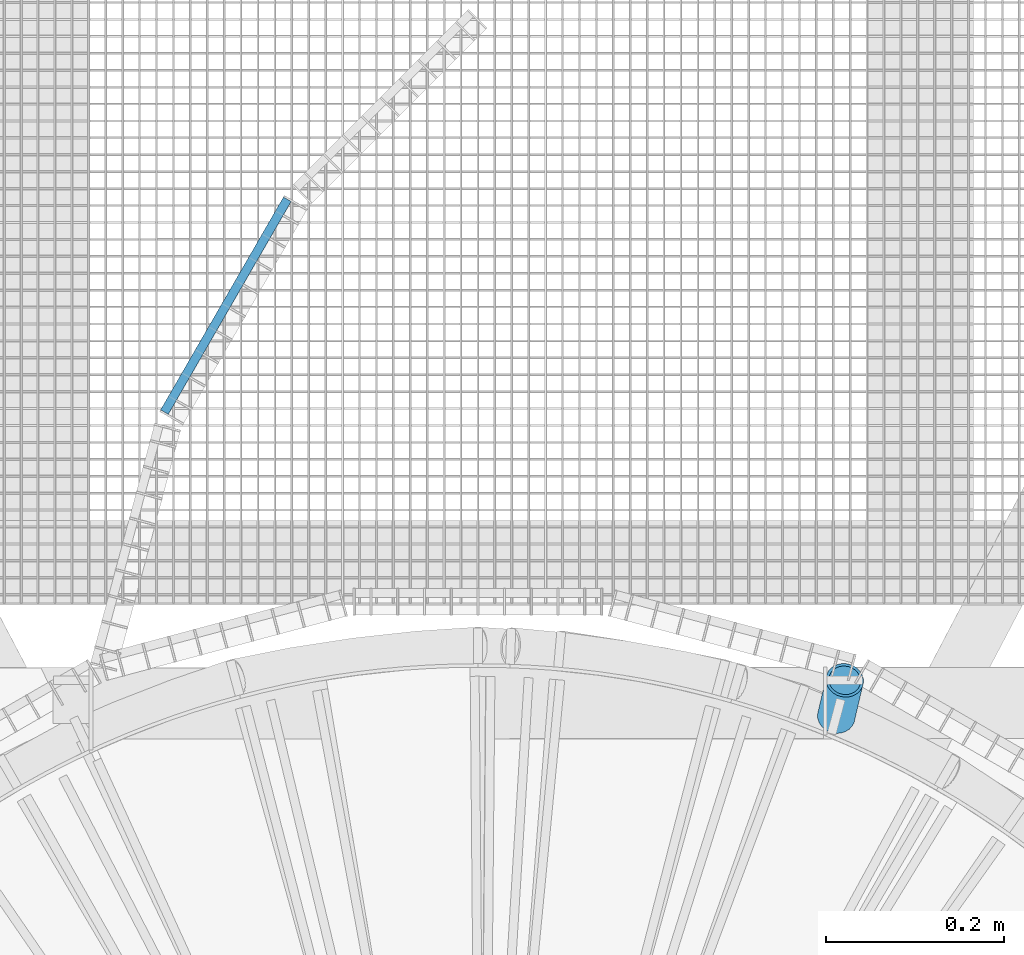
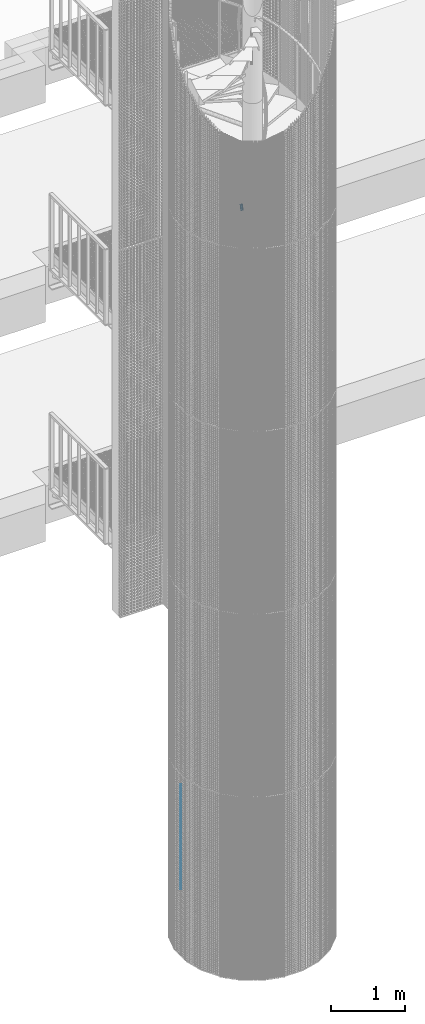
# One storey, part 329 of 1183: 52 beams, 1 member, 2 elements without a shape of their own.
"""IFC2X3 building model written with IfcOpenShell, lengths in millimetres."""

from ifc_helpers import new_model, si_unit, frame, origin_with_axes, origin_2d_with_axis, place, context, subcontext, project, spatial, rectangle, hollow_circle, extrude, material, type_object, element, aggregate, save


model = new_model("IFC2X3")

# Units and contexts
model_context = context("Model", 3, precision=1e-05, world=origin_with_axes())
body_context = subcontext(model_context, "Body", "Model", "MODEL_VIEW")
ifc_project = project(units=[si_unit("LENGTHUNIT", "METRE", prefix="MILLI"), si_unit("AREAUNIT", "SQUARE_METRE"), si_unit("VOLUMEUNIT", "CUBIC_METRE"), si_unit("MASSUNIT", "GRAM", prefix="KILO"), si_unit("TIMEUNIT", "SECOND"), si_unit("PLANEANGLEUNIT", "RADIAN"), si_unit("SOLIDANGLEUNIT", "STERADIAN"), si_unit("THERMODYNAMICTEMPERATUREUNIT", "DEGREE_CELSIUS"), si_unit("LUMINOUSINTENSITYUNIT", "LUMEN")], contexts=[model_context])

# Site, building, storey
site_placement = place(None, origin_with_axes())
site = spatial("IfcSite", under=ifc_project, at=site_placement, Name="Undefined", CompositionType="ELEMENT")
building_placement = place(site_placement, origin_with_axes())
building = spatial("IfcBuilding", under=site, at=building_placement, Name="Undefined", CompositionType="ELEMENT")
storey_placement = place(building_placement, origin_with_axes())
storey = spatial("IfcBuildingStorey", under=building, at=storey_placement, Name="Undefined", CompositionType="ELEMENT", Elevation=0.0)

# Assembly, beams
assembly_1_placement = place(storey_placement, origin_with_axes())
assembly_1 = element("IfcElementAssembly", 1, at=assembly_1_placement, inside=storey, Name="BORDURE", AssemblyPlace="NOTDEFINED", PredefinedType="NOTDEFINED")
ifc_material = material(Name="STEEL/S235JR")
beam_type = type_object("IfcBeamType", Name="PL2*10", PredefinedType="NOTDEFINED")
beam_1_placement = place(assembly_1_placement, frame((-214.029568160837, 1555.52617546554, 1560.0), z_axis=(-0.866025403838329, 0.499999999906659, 0.0), x_axis=(-0.49999999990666, -0.866025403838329, 0.0)))
beam_1 = element("IfcBeam", 2, at=beam_1_placement, type_object=beam_type, material=ifc_material, Name="ENTRETOISE", context=body_context, shape_type="SweptSolid", body=[
    extrude(rectangle(XDim=2.0, YDim=10.0, at=origin_2d_with_axis()), frame((275.999999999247, 9.09494701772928e-13, 1.53210777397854e-14), z_axis=(-1.0, 0.0, 0.0), x_axis=(0.0, -1.0, 0.0)), (0.0, 0.0, 1.0), 276.0),
])
beam_2_placement = place(assembly_1_placement, frame((-214.029568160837, 1555.52617546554, 1530.0), z_axis=(-0.866025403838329, 0.499999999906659, 0.0), x_axis=(-0.49999999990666, -0.866025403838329, 0.0)))
beam_2 = element("IfcBeam", 3, at=beam_2_placement, type_object=beam_type, material=ifc_material, Name="ENTRETOISE", context=body_context, shape_type="SweptSolid", body=[
    extrude(rectangle(XDim=2.0, YDim=10.0, at=origin_2d_with_axis()), frame((275.999999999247, 9.09494701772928e-13, 1.53210777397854e-14), z_axis=(-1.0, 0.0, 0.0), x_axis=(0.0, -1.0, 0.0)), (0.0, 0.0, 1.0), 276.0),
])
beam_3_placement = place(assembly_1_placement, frame((-214.029568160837, 1555.52617546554, 1500.0), z_axis=(-0.866025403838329, 0.499999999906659, 0.0), x_axis=(-0.49999999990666, -0.866025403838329, 0.0)))
beam_3 = element("IfcBeam", 4, at=beam_3_placement, type_object=beam_type, material=ifc_material, Name="ENTRETOISE", context=body_context, shape_type="SweptSolid", body=[
    extrude(rectangle(XDim=2.0, YDim=10.0, at=origin_2d_with_axis()), frame((275.999999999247, 9.09494701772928e-13, 1.53210777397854e-14), z_axis=(-1.0, 0.0, 0.0), x_axis=(0.0, -1.0, 0.0)), (0.0, 0.0, 1.0), 276.0),
])
beam_4_placement = place(assembly_1_placement, frame((-214.029568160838, 1555.52617546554, 1470.0), z_axis=(-0.866025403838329, 0.499999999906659, 0.0), x_axis=(-0.49999999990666, -0.866025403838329, 0.0)))
beam_4 = element("IfcBeam", 5, at=beam_4_placement, type_object=beam_type, material=ifc_material, Name="ENTRETOISE", context=body_context, shape_type="SweptSolid", body=[
    extrude(rectangle(XDim=2.0, YDim=10.0, at=origin_2d_with_axis()), frame((275.999999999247, 9.09494701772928e-13, 1.53210777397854e-14), z_axis=(-1.0, 0.0, 0.0), x_axis=(0.0, -1.0, 0.0)), (0.0, 0.0, 1.0), 276.0),
])
beam_5_placement = place(assembly_1_placement, frame((-214.029568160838, 1555.52617546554, 1440.0), z_axis=(-0.866025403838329, 0.499999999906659, 0.0), x_axis=(-0.49999999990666, -0.866025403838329, 0.0)))
beam_5 = element("IfcBeam", 6, at=beam_5_placement, type_object=beam_type, material=ifc_material, Name="ENTRETOISE", context=body_context, shape_type="SweptSolid", body=[
    extrude(rectangle(XDim=2.0, YDim=10.0, at=origin_2d_with_axis()), frame((275.999999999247, 9.09494701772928e-13, 1.53210777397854e-14), z_axis=(-1.0, 0.0, 0.0), x_axis=(0.0, -1.0, 0.0)), (0.0, 0.0, 1.0), 276.0),
])
beam_6_placement = place(assembly_1_placement, frame((-214.029568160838, 1555.52617546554, 1410.0), z_axis=(-0.866025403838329, 0.499999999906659, 0.0), x_axis=(-0.49999999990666, -0.866025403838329, 0.0)))
beam_6 = element("IfcBeam", 7, at=beam_6_placement, type_object=beam_type, material=ifc_material, Name="ENTRETOISE", context=body_context, shape_type="SweptSolid", body=[
    extrude(rectangle(XDim=2.0, YDim=10.0, at=origin_2d_with_axis()), frame((275.999999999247, 9.09494701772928e-13, 1.53210777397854e-14), z_axis=(-1.0, 0.0, 0.0), x_axis=(0.0, -1.0, 0.0)), (0.0, 0.0, 1.0), 276.0),
])
beam_7_placement = place(assembly_1_placement, frame((-214.029568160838, 1555.52617546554, 1380.0), z_axis=(-0.866025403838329, 0.499999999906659, 0.0), x_axis=(-0.49999999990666, -0.866025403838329, 0.0)))
beam_7 = element("IfcBeam", 8, at=beam_7_placement, type_object=beam_type, material=ifc_material, Name="ENTRETOISE", context=body_context, shape_type="SweptSolid", body=[
    extrude(rectangle(XDim=2.0, YDim=10.0, at=origin_2d_with_axis()), frame((275.999999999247, 9.09494701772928e-13, 1.53210777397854e-14), z_axis=(-1.0, 0.0, 0.0), x_axis=(0.0, -1.0, 0.0)), (0.0, 0.0, 1.0), 276.0),
])
beam_8_placement = place(assembly_1_placement, frame((-214.029568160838, 1555.52617546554, 1350.0), z_axis=(-0.866025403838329, 0.499999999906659, 0.0), x_axis=(-0.49999999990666, -0.866025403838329, 0.0)))
beam_8 = element("IfcBeam", 9, at=beam_8_placement, type_object=beam_type, material=ifc_material, Name="ENTRETOISE", context=body_context, shape_type="SweptSolid", body=[
    extrude(rectangle(XDim=2.0, YDim=10.0, at=origin_2d_with_axis()), frame((275.999999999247, 9.09494701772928e-13, 1.53210777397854e-14), z_axis=(-1.0, 0.0, 0.0), x_axis=(0.0, -1.0, 0.0)), (0.0, 0.0, 1.0), 276.0),
])
beam_9_placement = place(assembly_1_placement, frame((-214.029568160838, 1555.52617546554, 1320.0), z_axis=(-0.866025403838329, 0.499999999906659, 0.0), x_axis=(-0.49999999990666, -0.866025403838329, 0.0)))
beam_9 = element("IfcBeam", 10, at=beam_9_placement, type_object=beam_type, material=ifc_material, Name="ENTRETOISE", context=body_context, shape_type="SweptSolid", body=[
    extrude(rectangle(XDim=2.0, YDim=10.0, at=origin_2d_with_axis()), frame((275.999999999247, 9.09494701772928e-13, 1.53210777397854e-14), z_axis=(-1.0, 0.0, 0.0), x_axis=(0.0, -1.0, 0.0)), (0.0, 0.0, 1.0), 276.0),
])
beam_10_placement = place(assembly_1_placement, frame((-214.029568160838, 1555.52617546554, 1290.0), z_axis=(-0.866025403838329, 0.499999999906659, 0.0), x_axis=(-0.49999999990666, -0.866025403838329, 0.0)))
beam_10 = element("IfcBeam", 11, at=beam_10_placement, type_object=beam_type, material=ifc_material, Name="ENTRETOISE", context=body_context, shape_type="SweptSolid", body=[
    extrude(rectangle(XDim=2.0, YDim=10.0, at=origin_2d_with_axis()), frame((275.999999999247, 9.09494701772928e-13, 1.53210777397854e-14), z_axis=(-1.0, 0.0, 0.0), x_axis=(0.0, -1.0, 0.0)), (0.0, 0.0, 1.0), 276.0),
])
beam_11_placement = place(assembly_1_placement, frame((-214.029568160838, 1555.52617546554, 1260.0), z_axis=(-0.866025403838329, 0.499999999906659, 0.0), x_axis=(-0.49999999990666, -0.866025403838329, 0.0)))
beam_11 = element("IfcBeam", 12, at=beam_11_placement, type_object=beam_type, material=ifc_material, Name="ENTRETOISE", context=body_context, shape_type="SweptSolid", body=[
    extrude(rectangle(XDim=2.0, YDim=10.0, at=origin_2d_with_axis()), frame((275.999999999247, 9.09494701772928e-13, 1.53210777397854e-14), z_axis=(-1.0, 0.0, 0.0), x_axis=(0.0, -1.0, 0.0)), (0.0, 0.0, 1.0), 276.0),
])
beam_12_placement = place(assembly_1_placement, frame((-214.029568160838, 1555.52617546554, 1230.0), z_axis=(-0.866025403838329, 0.499999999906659, 0.0), x_axis=(-0.49999999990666, -0.866025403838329, 0.0)))
beam_12 = element("IfcBeam", 13, at=beam_12_placement, type_object=beam_type, material=ifc_material, Name="ENTRETOISE", context=body_context, shape_type="SweptSolid", body=[
    extrude(rectangle(XDim=2.0, YDim=10.0, at=origin_2d_with_axis()), frame((275.999999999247, 9.09494701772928e-13, 1.53210777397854e-14), z_axis=(-1.0, 0.0, 0.0), x_axis=(0.0, -1.0, 0.0)), (0.0, 0.0, 1.0), 276.0),
])
beam_13_placement = place(assembly_1_placement, frame((-214.029568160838, 1555.52617546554, 1200.0), z_axis=(-0.866025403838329, 0.499999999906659, 0.0), x_axis=(-0.49999999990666, -0.866025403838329, 0.0)))
beam_13 = element("IfcBeam", 14, at=beam_13_placement, type_object=beam_type, material=ifc_material, Name="ENTRETOISE", context=body_context, shape_type="SweptSolid", body=[
    extrude(rectangle(XDim=2.0, YDim=10.0, at=origin_2d_with_axis()), frame((275.999999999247, 9.09494701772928e-13, 1.53210777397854e-14), z_axis=(-1.0, 0.0, 0.0), x_axis=(0.0, -1.0, 0.0)), (0.0, 0.0, 1.0), 276.0),
])
beam_14_placement = place(assembly_1_placement, frame((-214.029568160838, 1555.52617546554, 1170.0), z_axis=(-0.866025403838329, 0.499999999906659, 0.0), x_axis=(-0.49999999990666, -0.866025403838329, 0.0)))
beam_14 = element("IfcBeam", 15, at=beam_14_placement, type_object=beam_type, material=ifc_material, Name="ENTRETOISE", context=body_context, shape_type="SweptSolid", body=[
    extrude(rectangle(XDim=2.0, YDim=10.0, at=origin_2d_with_axis()), frame((275.999999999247, 9.09494701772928e-13, 1.53210777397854e-14), z_axis=(-1.0, 0.0, 0.0), x_axis=(0.0, -1.0, 0.0)), (0.0, 0.0, 1.0), 276.0),
])
beam_15_placement = place(assembly_1_placement, frame((-214.029568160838, 1555.52617546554, 1140.0), z_axis=(-0.866025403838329, 0.499999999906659, 0.0), x_axis=(-0.49999999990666, -0.866025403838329, 0.0)))
beam_15 = element("IfcBeam", 16, at=beam_15_placement, type_object=beam_type, material=ifc_material, Name="ENTRETOISE", context=body_context, shape_type="SweptSolid", body=[
    extrude(rectangle(XDim=2.0, YDim=10.0, at=origin_2d_with_axis()), frame((275.999999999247, 9.09494701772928e-13, 1.53210777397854e-14), z_axis=(-1.0, 0.0, 0.0), x_axis=(0.0, -1.0, 0.0)), (0.0, 0.0, 1.0), 276.0),
])
beam_16_placement = place(assembly_1_placement, frame((-214.029568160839, 1555.52617546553, 719.999999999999), z_axis=(-0.866025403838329, 0.499999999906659, 0.0), x_axis=(-0.49999999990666, -0.866025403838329, 0.0)))
beam_16 = element("IfcBeam", 17, at=beam_16_placement, type_object=beam_type, material=ifc_material, Name="ENTRETOISE", context=body_context, shape_type="SweptSolid", body=[
    extrude(rectangle(XDim=2.0, YDim=10.0, at=origin_2d_with_axis()), frame((275.999999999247, 9.09494701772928e-13, 1.53210777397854e-14), z_axis=(-1.0, 0.0, 0.0), x_axis=(0.0, -1.0, 0.0)), (0.0, 0.0, 1.0), 276.0),
])
beam_17_placement = place(assembly_1_placement, frame((-214.029568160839, 1555.52617546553, 689.999999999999), z_axis=(-0.866025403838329, 0.499999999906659, 0.0), x_axis=(-0.49999999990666, -0.866025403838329, 0.0)))
beam_17 = element("IfcBeam", 18, at=beam_17_placement, type_object=beam_type, material=ifc_material, Name="ENTRETOISE", context=body_context, shape_type="SweptSolid", body=[
    extrude(rectangle(XDim=2.0, YDim=10.0, at=origin_2d_with_axis()), frame((275.999999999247, 9.09494701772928e-13, 1.53210777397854e-14), z_axis=(-1.0, 0.0, 0.0), x_axis=(0.0, -1.0, 0.0)), (0.0, 0.0, 1.0), 276.0),
])
beam_18_placement = place(assembly_1_placement, frame((-214.029568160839, 1555.52617546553, 749.999999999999), z_axis=(-0.866025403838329, 0.499999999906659, 0.0), x_axis=(-0.49999999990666, -0.866025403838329, 0.0)))
beam_18 = element("IfcBeam", 19, at=beam_18_placement, type_object=beam_type, material=ifc_material, Name="ENTRETOISE", context=body_context, shape_type="SweptSolid", body=[
    extrude(rectangle(XDim=2.0, YDim=10.0, at=origin_2d_with_axis()), frame((275.999999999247, 9.09494701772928e-13, 1.53210777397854e-14), z_axis=(-1.0, 0.0, 0.0), x_axis=(0.0, -1.0, 0.0)), (0.0, 0.0, 1.0), 276.0),
])
beam_19_placement = place(assembly_1_placement, frame((-214.029568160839, 1555.52617546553, 659.999999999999), z_axis=(-0.866025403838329, 0.499999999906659, 0.0), x_axis=(-0.49999999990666, -0.866025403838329, 0.0)))
beam_19 = element("IfcBeam", 20, at=beam_19_placement, type_object=beam_type, material=ifc_material, Name="ENTRETOISE", context=body_context, shape_type="SweptSolid", body=[
    extrude(rectangle(XDim=2.0, YDim=10.0, at=origin_2d_with_axis()), frame((275.999999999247, 9.09494701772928e-13, 1.53210777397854e-14), z_axis=(-1.0, 0.0, 0.0), x_axis=(0.0, -1.0, 0.0)), (0.0, 0.0, 1.0), 276.0),
])
beam_20_placement = place(assembly_1_placement, frame((-214.02956816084, 1555.52617546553, 629.999999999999), z_axis=(-0.866025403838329, 0.499999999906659, 0.0), x_axis=(-0.49999999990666, -0.866025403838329, 0.0)))
beam_20 = element("IfcBeam", 21, at=beam_20_placement, type_object=beam_type, material=ifc_material, Name="ENTRETOISE", context=body_context, shape_type="SweptSolid", body=[
    extrude(rectangle(XDim=2.0, YDim=10.0, at=origin_2d_with_axis()), frame((275.999999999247, 9.09494701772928e-13, 1.53210777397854e-14), z_axis=(-1.0, 0.0, 0.0), x_axis=(0.0, -1.0, 0.0)), (0.0, 0.0, 1.0), 276.0),
])
beam_21_placement = place(assembly_1_placement, frame((-214.029568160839, 1555.52617546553, 779.999999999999), z_axis=(-0.866025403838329, 0.499999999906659, 0.0), x_axis=(-0.49999999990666, -0.866025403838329, 0.0)))
beam_21 = element("IfcBeam", 22, at=beam_21_placement, type_object=beam_type, material=ifc_material, Name="ENTRETOISE", context=body_context, shape_type="SweptSolid", body=[
    extrude(rectangle(XDim=2.0, YDim=10.0, at=origin_2d_with_axis()), frame((275.999999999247, 9.09494701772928e-13, 1.53210777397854e-14), z_axis=(-1.0, 0.0, 0.0), x_axis=(0.0, -1.0, 0.0)), (0.0, 0.0, 1.0), 276.0),
])
beam_22_placement = place(assembly_1_placement, frame((-214.02956816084, 1555.52617546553, 599.999999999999), z_axis=(-0.866025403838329, 0.499999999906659, 0.0), x_axis=(-0.49999999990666, -0.866025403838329, 0.0)))
beam_22 = element("IfcBeam", 23, at=beam_22_placement, type_object=beam_type, material=ifc_material, Name="ENTRETOISE", context=body_context, shape_type="SweptSolid", body=[
    extrude(rectangle(XDim=2.0, YDim=10.0, at=origin_2d_with_axis()), frame((275.999999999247, 9.09494701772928e-13, 1.53210777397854e-14), z_axis=(-1.0, 0.0, 0.0), x_axis=(0.0, -1.0, 0.0)), (0.0, 0.0, 1.0), 276.0),
])
beam_23_placement = place(assembly_1_placement, frame((-214.029568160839, 1555.52617546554, 809.999999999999), z_axis=(-0.866025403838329, 0.499999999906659, 0.0), x_axis=(-0.49999999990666, -0.866025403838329, 0.0)))
beam_23 = element("IfcBeam", 24, at=beam_23_placement, type_object=beam_type, material=ifc_material, Name="ENTRETOISE", context=body_context, shape_type="SweptSolid", body=[
    extrude(rectangle(XDim=2.0, YDim=10.0, at=origin_2d_with_axis()), frame((275.999999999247, 9.09494701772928e-13, 1.53210777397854e-14), z_axis=(-1.0, 0.0, 0.0), x_axis=(0.0, -1.0, 0.0)), (0.0, 0.0, 1.0), 276.0),
])
beam_24_placement = place(assembly_1_placement, frame((-214.02956816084, 1555.52617546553, 569.999999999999), z_axis=(-0.866025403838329, 0.499999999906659, 0.0), x_axis=(-0.49999999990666, -0.866025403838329, 0.0)))
beam_24 = element("IfcBeam", 25, at=beam_24_placement, type_object=beam_type, material=ifc_material, Name="ENTRETOISE", context=body_context, shape_type="SweptSolid", body=[
    extrude(rectangle(XDim=2.0, YDim=10.0, at=origin_2d_with_axis()), frame((275.999999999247, 9.09494701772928e-13, 1.53210777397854e-14), z_axis=(-1.0, 0.0, 0.0), x_axis=(0.0, -1.0, 0.0)), (0.0, 0.0, 1.0), 276.0),
])
beam_25_placement = place(assembly_1_placement, frame((-214.02956816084, 1555.52617546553, 539.999999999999), z_axis=(-0.866025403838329, 0.499999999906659, 0.0), x_axis=(-0.49999999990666, -0.866025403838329, 0.0)))
beam_25 = element("IfcBeam", 26, at=beam_25_placement, type_object=beam_type, material=ifc_material, Name="ENTRETOISE", context=body_context, shape_type="SweptSolid", body=[
    extrude(rectangle(XDim=2.0, YDim=10.0, at=origin_2d_with_axis()), frame((275.999999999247, 9.09494701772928e-13, 1.53210777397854e-14), z_axis=(-1.0, 0.0, 0.0), x_axis=(0.0, -1.0, 0.0)), (0.0, 0.0, 1.0), 276.0),
])
beam_26_placement = place(assembly_1_placement, frame((-214.029568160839, 1555.52617546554, 839.999999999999), z_axis=(-0.866025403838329, 0.499999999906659, 0.0), x_axis=(-0.49999999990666, -0.866025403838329, 0.0)))
beam_26 = element("IfcBeam", 27, at=beam_26_placement, type_object=beam_type, material=ifc_material, Name="ENTRETOISE", context=body_context, shape_type="SweptSolid", body=[
    extrude(rectangle(XDim=2.0, YDim=10.0, at=origin_2d_with_axis()), frame((275.999999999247, 9.09494701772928e-13, 1.53210777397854e-14), z_axis=(-1.0, 0.0, 0.0), x_axis=(0.0, -1.0, 0.0)), (0.0, 0.0, 1.0), 276.0),
])
beam_27_placement = place(assembly_1_placement, frame((-214.029568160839, 1555.52617546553, 509.999999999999), z_axis=(-0.866025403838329, 0.499999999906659, 0.0), x_axis=(-0.49999999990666, -0.866025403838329, 0.0)))
beam_27 = element("IfcBeam", 28, at=beam_27_placement, type_object=beam_type, material=ifc_material, Name="ENTRETOISE", context=body_context, shape_type="SweptSolid", body=[
    extrude(rectangle(XDim=2.0, YDim=10.0, at=origin_2d_with_axis()), frame((275.999999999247, 9.09494701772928e-13, 1.53210777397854e-14), z_axis=(-1.0, 0.0, 0.0), x_axis=(0.0, -1.0, 0.0)), (0.0, 0.0, 1.0), 276.0),
])
beam_28_placement = place(assembly_1_placement, frame((-214.029568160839, 1555.52617546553, 479.999999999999), z_axis=(-0.866025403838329, 0.499999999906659, 0.0), x_axis=(-0.49999999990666, -0.866025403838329, 0.0)))
beam_28 = element("IfcBeam", 29, at=beam_28_placement, type_object=beam_type, material=ifc_material, Name="ENTRETOISE", context=body_context, shape_type="SweptSolid", body=[
    extrude(rectangle(XDim=2.0, YDim=10.0, at=origin_2d_with_axis()), frame((275.999999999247, 9.09494701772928e-13, 1.53210777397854e-14), z_axis=(-1.0, 0.0, 0.0), x_axis=(0.0, -1.0, 0.0)), (0.0, 0.0, 1.0), 276.0),
])
beam_29_placement = place(assembly_1_placement, frame((-214.029568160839, 1555.52617546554, 869.999999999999), z_axis=(-0.866025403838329, 0.499999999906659, 0.0), x_axis=(-0.49999999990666, -0.866025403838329, 0.0)))
beam_29 = element("IfcBeam", 30, at=beam_29_placement, type_object=beam_type, material=ifc_material, Name="ENTRETOISE", context=body_context, shape_type="SweptSolid", body=[
    extrude(rectangle(XDim=2.0, YDim=10.0, at=origin_2d_with_axis()), frame((275.999999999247, 9.09494701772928e-13, 1.53210777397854e-14), z_axis=(-1.0, 0.0, 0.0), x_axis=(0.0, -1.0, 0.0)), (0.0, 0.0, 1.0), 276.0),
])
beam_30_placement = place(assembly_1_placement, frame((-214.02956816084, 1555.52617546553, 449.999999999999), z_axis=(-0.866025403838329, 0.499999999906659, 0.0), x_axis=(-0.49999999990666, -0.866025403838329, 0.0)))
beam_30 = element("IfcBeam", 31, at=beam_30_placement, type_object=beam_type, material=ifc_material, Name="ENTRETOISE", context=body_context, shape_type="SweptSolid", body=[
    extrude(rectangle(XDim=2.0, YDim=10.0, at=origin_2d_with_axis()), frame((275.999999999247, 9.09494701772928e-13, 1.53210777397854e-14), z_axis=(-1.0, 0.0, 0.0), x_axis=(0.0, -1.0, 0.0)), (0.0, 0.0, 1.0), 276.0),
])
beam_31_placement = place(assembly_1_placement, frame((-214.02956816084, 1555.52617546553, 419.999999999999), z_axis=(-0.866025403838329, 0.499999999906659, 0.0), x_axis=(-0.49999999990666, -0.866025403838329, 0.0)))
beam_31 = element("IfcBeam", 32, at=beam_31_placement, type_object=beam_type, material=ifc_material, Name="ENTRETOISE", context=body_context, shape_type="SweptSolid", body=[
    extrude(rectangle(XDim=2.0, YDim=10.0, at=origin_2d_with_axis()), frame((275.999999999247, 9.09494701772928e-13, 1.53210777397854e-14), z_axis=(-1.0, 0.0, 0.0), x_axis=(0.0, -1.0, 0.0)), (0.0, 0.0, 1.0), 276.0),
])
beam_32_placement = place(assembly_1_placement, frame((-214.029568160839, 1555.52617546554, 899.999999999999), z_axis=(-0.866025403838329, 0.499999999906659, 0.0), x_axis=(-0.49999999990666, -0.866025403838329, 0.0)))
beam_32 = element("IfcBeam", 33, at=beam_32_placement, type_object=beam_type, material=ifc_material, Name="ENTRETOISE", context=body_context, shape_type="SweptSolid", body=[
    extrude(rectangle(XDim=2.0, YDim=10.0, at=origin_2d_with_axis()), frame((275.999999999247, 9.09494701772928e-13, 1.53210777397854e-14), z_axis=(-1.0, 0.0, 0.0), x_axis=(0.0, -1.0, 0.0)), (0.0, 0.0, 1.0), 276.0),
])
beam_33_placement = place(assembly_1_placement, frame((-214.02956816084, 1555.52617546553, 389.999999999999), z_axis=(-0.866025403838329, 0.499999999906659, 0.0), x_axis=(-0.49999999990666, -0.866025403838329, 0.0)))
beam_33 = element("IfcBeam", 34, at=beam_33_placement, type_object=beam_type, material=ifc_material, Name="ENTRETOISE", context=body_context, shape_type="SweptSolid", body=[
    extrude(rectangle(XDim=2.0, YDim=10.0, at=origin_2d_with_axis()), frame((275.999999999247, 9.09494701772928e-13, 1.53210777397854e-14), z_axis=(-1.0, 0.0, 0.0), x_axis=(0.0, -1.0, 0.0)), (0.0, 0.0, 1.0), 276.0),
])
beam_34_placement = place(assembly_1_placement, frame((-214.029568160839, 1555.52617546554, 929.999999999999), z_axis=(-0.866025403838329, 0.499999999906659, 0.0), x_axis=(-0.49999999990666, -0.866025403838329, 0.0)))
beam_34 = element("IfcBeam", 35, at=beam_34_placement, type_object=beam_type, material=ifc_material, Name="ENTRETOISE", context=body_context, shape_type="SweptSolid", body=[
    extrude(rectangle(XDim=2.0, YDim=10.0, at=origin_2d_with_axis()), frame((275.999999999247, 9.09494701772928e-13, 1.53210777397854e-14), z_axis=(-1.0, 0.0, 0.0), x_axis=(0.0, -1.0, 0.0)), (0.0, 0.0, 1.0), 276.0),
])
beam_35_placement = place(assembly_1_placement, frame((-214.02956816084, 1555.52617546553, 359.999999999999), z_axis=(-0.866025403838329, 0.499999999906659, 0.0), x_axis=(-0.49999999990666, -0.866025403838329, 0.0)))
beam_35 = element("IfcBeam", 36, at=beam_35_placement, type_object=beam_type, material=ifc_material, Name="ENTRETOISE", context=body_context, shape_type="SweptSolid", body=[
    extrude(rectangle(XDim=2.0, YDim=10.0, at=origin_2d_with_axis()), frame((275.999999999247, 9.09494701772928e-13, 1.53210777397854e-14), z_axis=(-1.0, 0.0, 0.0), x_axis=(0.0, -1.0, 0.0)), (0.0, 0.0, 1.0), 276.0),
])
beam_36_placement = place(assembly_1_placement, frame((-214.02956816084, 1555.52617546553, 329.999999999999), z_axis=(-0.866025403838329, 0.499999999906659, 0.0), x_axis=(-0.49999999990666, -0.866025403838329, 0.0)))
beam_36 = element("IfcBeam", 37, at=beam_36_placement, type_object=beam_type, material=ifc_material, Name="ENTRETOISE", context=body_context, shape_type="SweptSolid", body=[
    extrude(rectangle(XDim=2.0, YDim=10.0, at=origin_2d_with_axis()), frame((275.999999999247, 9.09494701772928e-13, 1.53210777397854e-14), z_axis=(-1.0, 0.0, 0.0), x_axis=(0.0, -1.0, 0.0)), (0.0, 0.0, 1.0), 276.0),
])
beam_37_placement = place(assembly_1_placement, frame((-214.029568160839, 1555.52617546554, 959.999999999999), z_axis=(-0.866025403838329, 0.499999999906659, 0.0), x_axis=(-0.49999999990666, -0.866025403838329, 0.0)))
beam_37 = element("IfcBeam", 38, at=beam_37_placement, type_object=beam_type, material=ifc_material, Name="ENTRETOISE", context=body_context, shape_type="SweptSolid", body=[
    extrude(rectangle(XDim=2.0, YDim=10.0, at=origin_2d_with_axis()), frame((275.999999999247, 9.09494701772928e-13, 1.53210777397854e-14), z_axis=(-1.0, 0.0, 0.0), x_axis=(0.0, -1.0, 0.0)), (0.0, 0.0, 1.0), 276.0),
])
beam_38_placement = place(assembly_1_placement, frame((-214.02956816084, 1555.52617546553, 299.999999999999), z_axis=(-0.866025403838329, 0.499999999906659, 0.0), x_axis=(-0.49999999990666, -0.866025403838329, 0.0)))
beam_38 = element("IfcBeam", 39, at=beam_38_placement, type_object=beam_type, material=ifc_material, Name="ENTRETOISE", context=body_context, shape_type="SweptSolid", body=[
    extrude(rectangle(XDim=2.0, YDim=10.0, at=origin_2d_with_axis()), frame((275.999999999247, 9.09494701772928e-13, 1.53210777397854e-14), z_axis=(-1.0, 0.0, 0.0), x_axis=(0.0, -1.0, 0.0)), (0.0, 0.0, 1.0), 276.0),
])
beam_39_placement = place(assembly_1_placement, frame((-214.02956816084, 1555.52617546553, 269.999999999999), z_axis=(-0.866025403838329, 0.499999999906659, 0.0), x_axis=(-0.49999999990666, -0.866025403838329, 0.0)))
beam_39 = element("IfcBeam", 40, at=beam_39_placement, type_object=beam_type, material=ifc_material, Name="ENTRETOISE", context=body_context, shape_type="SweptSolid", body=[
    extrude(rectangle(XDim=2.0, YDim=10.0, at=origin_2d_with_axis()), frame((275.999999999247, 9.09494701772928e-13, 1.53210777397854e-14), z_axis=(-1.0, 0.0, 0.0), x_axis=(0.0, -1.0, 0.0)), (0.0, 0.0, 1.0), 276.0),
])
beam_40_placement = place(assembly_1_placement, frame((-214.029568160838, 1555.52617546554, 989.999999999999), z_axis=(-0.866025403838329, 0.499999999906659, 0.0), x_axis=(-0.49999999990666, -0.866025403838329, 0.0)))
beam_40 = element("IfcBeam", 41, at=beam_40_placement, type_object=beam_type, material=ifc_material, Name="ENTRETOISE", context=body_context, shape_type="SweptSolid", body=[
    extrude(rectangle(XDim=2.0, YDim=10.0, at=origin_2d_with_axis()), frame((275.999999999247, 9.09494701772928e-13, 1.53210777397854e-14), z_axis=(-1.0, 0.0, 0.0), x_axis=(0.0, -1.0, 0.0)), (0.0, 0.0, 1.0), 276.0),
])
beam_41_placement = place(assembly_1_placement, frame((-214.02956816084, 1555.52617546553, 239.999999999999), z_axis=(-0.866025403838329, 0.499999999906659, 0.0), x_axis=(-0.49999999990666, -0.866025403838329, 0.0)))
beam_41 = element("IfcBeam", 42, at=beam_41_placement, type_object=beam_type, material=ifc_material, Name="ENTRETOISE", context=body_context, shape_type="SweptSolid", body=[
    extrude(rectangle(XDim=2.0, YDim=10.0, at=origin_2d_with_axis()), frame((275.999999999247, 9.09494701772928e-13, 1.53210777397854e-14), z_axis=(-1.0, 0.0, 0.0), x_axis=(0.0, -1.0, 0.0)), (0.0, 0.0, 1.0), 276.0),
])
beam_42_placement = place(assembly_1_placement, frame((-214.029568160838, 1555.52617546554, 1020.0), z_axis=(-0.866025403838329, 0.499999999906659, 0.0), x_axis=(-0.49999999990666, -0.866025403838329, 0.0)))
beam_42 = element("IfcBeam", 43, at=beam_42_placement, type_object=beam_type, material=ifc_material, Name="ENTRETOISE", context=body_context, shape_type="SweptSolid", body=[
    extrude(rectangle(XDim=2.0, YDim=10.0, at=origin_2d_with_axis()), frame((275.999999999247, 9.09494701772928e-13, 1.53210777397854e-14), z_axis=(-1.0, 0.0, 0.0), x_axis=(0.0, -1.0, 0.0)), (0.0, 0.0, 1.0), 276.0),
])
beam_43_placement = place(assembly_1_placement, frame((-214.02956816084, 1555.52617546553, 209.999999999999), z_axis=(-0.866025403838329, 0.499999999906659, 0.0), x_axis=(-0.49999999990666, -0.866025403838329, 0.0)))
beam_43 = element("IfcBeam", 44, at=beam_43_placement, type_object=beam_type, material=ifc_material, Name="ENTRETOISE", context=body_context, shape_type="SweptSolid", body=[
    extrude(rectangle(XDim=2.0, YDim=10.0, at=origin_2d_with_axis()), frame((275.999999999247, 9.09494701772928e-13, 1.53210777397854e-14), z_axis=(-1.0, 0.0, 0.0), x_axis=(0.0, -1.0, 0.0)), (0.0, 0.0, 1.0), 276.0),
])
beam_44_placement = place(assembly_1_placement, frame((-214.02956816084, 1555.52617546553, 179.999999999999), z_axis=(-0.866025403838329, 0.499999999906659, 0.0), x_axis=(-0.49999999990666, -0.866025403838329, 0.0)))
beam_44 = element("IfcBeam", 45, at=beam_44_placement, type_object=beam_type, material=ifc_material, Name="ENTRETOISE", context=body_context, shape_type="SweptSolid", body=[
    extrude(rectangle(XDim=2.0, YDim=10.0, at=origin_2d_with_axis()), frame((275.999999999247, 9.09494701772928e-13, 1.53210777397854e-14), z_axis=(-1.0, 0.0, 0.0), x_axis=(0.0, -1.0, 0.0)), (0.0, 0.0, 1.0), 276.0),
])
beam_45_placement = place(assembly_1_placement, frame((-214.029568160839, 1555.52617546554, 1050.0), z_axis=(-0.866025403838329, 0.499999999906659, 0.0), x_axis=(-0.49999999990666, -0.866025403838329, 0.0)))
beam_45 = element("IfcBeam", 46, at=beam_45_placement, type_object=beam_type, material=ifc_material, Name="ENTRETOISE", context=body_context, shape_type="SweptSolid", body=[
    extrude(rectangle(XDim=2.0, YDim=10.0, at=origin_2d_with_axis()), frame((275.999999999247, 9.09494701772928e-13, 1.53210777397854e-14), z_axis=(-1.0, 0.0, 0.0), x_axis=(0.0, -1.0, 0.0)), (0.0, 0.0, 1.0), 276.0),
])
beam_46_placement = place(assembly_1_placement, frame((-214.029568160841, 1555.52617546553, 149.999999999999), z_axis=(-0.866025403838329, 0.499999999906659, 0.0), x_axis=(-0.49999999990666, -0.866025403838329, 0.0)))
beam_46 = element("IfcBeam", 47, at=beam_46_placement, type_object=beam_type, material=ifc_material, Name="ENTRETOISE", context=body_context, shape_type="SweptSolid", body=[
    extrude(rectangle(XDim=2.0, YDim=10.0, at=origin_2d_with_axis()), frame((275.999999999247, 9.09494701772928e-13, 1.53210777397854e-14), z_axis=(-1.0, 0.0, 0.0), x_axis=(0.0, -1.0, 0.0)), (0.0, 0.0, 1.0), 276.0),
])
beam_47_placement = place(assembly_1_placement, frame((-214.02956816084, 1555.52617546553, 119.999999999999), z_axis=(-0.866025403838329, 0.499999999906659, 0.0), x_axis=(-0.49999999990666, -0.866025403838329, 0.0)))
beam_47 = element("IfcBeam", 48, at=beam_47_placement, type_object=beam_type, material=ifc_material, Name="ENTRETOISE", context=body_context, shape_type="SweptSolid", body=[
    extrude(rectangle(XDim=2.0, YDim=10.0, at=origin_2d_with_axis()), frame((275.999999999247, 9.09494701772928e-13, 1.53210777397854e-14), z_axis=(-1.0, 0.0, 0.0), x_axis=(0.0, -1.0, 0.0)), (0.0, 0.0, 1.0), 276.0),
])
beam_48_placement = place(assembly_1_placement, frame((-214.029568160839, 1555.52617546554, 1080.0), z_axis=(-0.866025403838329, 0.499999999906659, 0.0), x_axis=(-0.49999999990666, -0.866025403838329, 0.0)))
beam_48 = element("IfcBeam", 49, at=beam_48_placement, type_object=beam_type, material=ifc_material, Name="ENTRETOISE", context=body_context, shape_type="SweptSolid", body=[
    extrude(rectangle(XDim=2.0, YDim=10.0, at=origin_2d_with_axis()), frame((275.999999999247, 9.09494701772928e-13, 1.53210777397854e-14), z_axis=(-1.0, 0.0, 0.0), x_axis=(0.0, -1.0, 0.0)), (0.0, 0.0, 1.0), 276.0),
])
beam_49_placement = place(assembly_1_placement, frame((-214.02956816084, 1555.52617546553, 89.9999999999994), z_axis=(-0.866025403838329, 0.499999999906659, 0.0), x_axis=(-0.49999999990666, -0.866025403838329, 0.0)))
beam_49 = element("IfcBeam", 50, at=beam_49_placement, type_object=beam_type, material=ifc_material, Name="ENTRETOISE", context=body_context, shape_type="SweptSolid", body=[
    extrude(rectangle(XDim=2.0, YDim=10.0, at=origin_2d_with_axis()), frame((275.999999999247, 9.09494701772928e-13, 1.53210777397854e-14), z_axis=(-1.0, 0.0, 0.0), x_axis=(0.0, -1.0, 0.0)), (0.0, 0.0, 1.0), 276.0),
])
beam_50_placement = place(assembly_1_placement, frame((-214.02956816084, 1555.52617546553, 59.9999999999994), z_axis=(-0.866025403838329, 0.499999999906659, 0.0), x_axis=(-0.49999999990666, -0.866025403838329, 0.0)))
beam_50 = element("IfcBeam", 51, at=beam_50_placement, type_object=beam_type, material=ifc_material, Name="ENTRETOISE", context=body_context, shape_type="SweptSolid", body=[
    extrude(rectangle(XDim=2.0, YDim=10.0, at=origin_2d_with_axis()), frame((275.999999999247, 9.09494701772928e-13, 1.53210777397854e-14), z_axis=(-1.0, 0.0, 0.0), x_axis=(0.0, -1.0, 0.0)), (0.0, 0.0, 1.0), 276.0),
])
beam_51_placement = place(assembly_1_placement, frame((-214.029568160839, 1555.52617546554, 1110.0), z_axis=(-0.866025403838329, 0.499999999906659, 0.0), x_axis=(-0.49999999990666, -0.866025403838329, 0.0)))
beam_51 = element("IfcBeam", 52, at=beam_51_placement, type_object=beam_type, material=ifc_material, Name="ENTRETOISE", context=body_context, shape_type="SweptSolid", body=[
    extrude(rectangle(XDim=2.0, YDim=10.0, at=origin_2d_with_axis()), frame((275.999999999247, 9.09494701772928e-13, 1.53210777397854e-14), z_axis=(-1.0, 0.0, 0.0), x_axis=(0.0, -1.0, 0.0)), (0.0, 0.0, 1.0), 276.0),
])
beam_52_placement = place(assembly_1_placement, frame((-214.029568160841, 1555.52617546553, 29.9999999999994), z_axis=(-0.866025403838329, 0.499999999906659, 0.0), x_axis=(-0.49999999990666, -0.866025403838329, 0.0)))
beam_52 = element("IfcBeam", 53, at=beam_52_placement, type_object=beam_type, material=ifc_material, Name="ENTRETOISE", context=body_context, shape_type="SweptSolid", body=[
    extrude(rectangle(XDim=2.0, YDim=10.0, at=origin_2d_with_axis()), frame((275.999999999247, 9.09494701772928e-13, 1.53210777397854e-14), z_axis=(-1.0, 0.0, 0.0), x_axis=(0.0, -1.0, 0.0)), (0.0, 0.0, 1.0), 276.0),
])
aggregate(assembly_1, [beam_1, beam_2, beam_3, beam_4, beam_5, beam_6, beam_7, beam_8, beam_9, beam_10, beam_11, beam_12, beam_13, beam_14, beam_15, beam_16, beam_17, beam_18, beam_19, beam_20, beam_21, beam_22, beam_23, beam_24, beam_25, beam_26, beam_27, beam_28, beam_29, beam_30, beam_31, beam_32, beam_33, beam_34, beam_35, beam_36, beam_37, beam_38, beam_39, beam_40, beam_41, beam_42, beam_43, beam_44, beam_45, beam_46, beam_47, beam_48, beam_49, beam_50, beam_51, beam_52])

# Assembly, member
assembly_2_placement = place(storey_placement, origin_with_axes())
assembly_2 = element("IfcElementAssembly", 54, at=assembly_2_placement, inside=storey, Name="MAIN_COURANTE", AssemblyPlace="NOTDEFINED", PredefinedType="NOTDEFINED")
member_type = type_object("IfcMemberType", Name="TUBE-42.4*3.2", PredefinedType="NOTDEFINED")
member_placement = place(assembly_2_placement, frame((402.406753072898, 974.641049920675, 11109.9900000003), z_axis=(0.97362600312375, -0.228149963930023, 1.83943484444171e-10), x_axis=(0.105875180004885, 0.451820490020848, 0.885803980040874)))
member = element("IfcMember", 55, at=member_placement, type_object=member_type, material=ifc_material, Name="MAIN_COURANTE", context=body_context, shape_type="SweptSolid", body=[
    extrude(hollow_circle(Radius=21.200000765, WallThickness=3.200000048, at=origin_2d_with_axis()), frame((90.1440970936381, -1.81898940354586e-12, 3.63795526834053e-12), z_axis=(-1.0, 0.0, 0.0), x_axis=(0.0, -1.0, 0.0)), (0.0, 0.0, 1.0), 90.14),
])
aggregate(assembly_2, [member])

save(model, "model.ifc")
